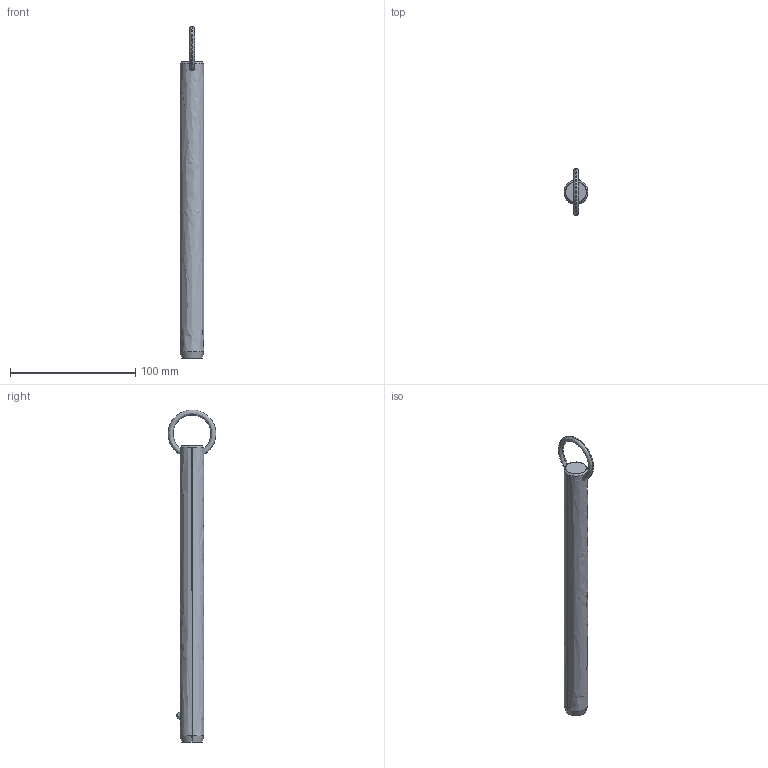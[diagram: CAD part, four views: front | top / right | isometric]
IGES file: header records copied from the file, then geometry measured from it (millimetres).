
Start section: SolidWorks IGES file using analytic representation for surfaces
Global section: file name: C:\Users\liam_\OneDrive\Documents\WORK\Work for WixRoyd\Job Files\J-00019 - Matt Davis CAD Checking\04. CAD Drawings\automotion20190605\P1250.2_v2\P1250.2_v2_20190729_IGES\P1250.075-800.igs; native system: SolidWorks 2017; preprocessor: SolidWorks 2017; author: liam_; date: 190730.000343; units: millimetre
Bounding box: 19 x 38.1 x 264.99 mm (x, y, z)
Surface area: 15643.6 mm2 (no closed solid volume)
Topology: 0 solids, 0 shells, 12 faces, 294 edges, 292 vertices
Faces by surface type: revolution 8, bspline 4
